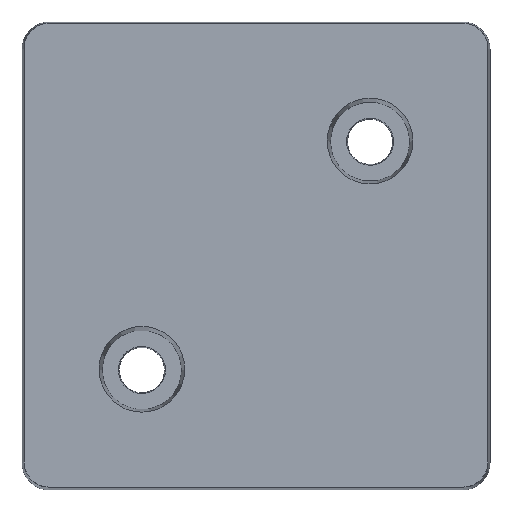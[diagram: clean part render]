
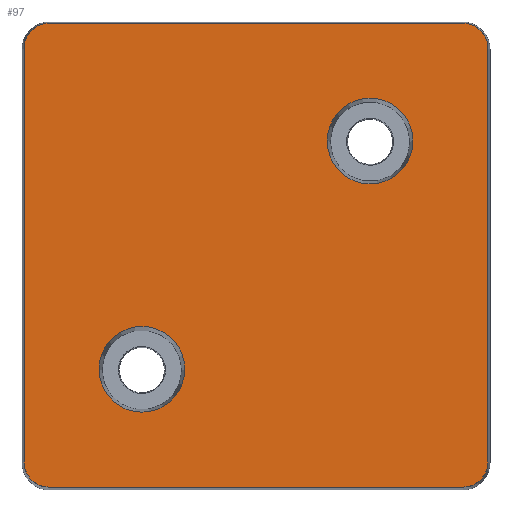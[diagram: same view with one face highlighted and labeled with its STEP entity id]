
A CAD part, top view. The second image highlights one B-rep face of the part: STEP entity #97.
In plain terms, the highlighted planar face has unit normal (0, 0, 1).
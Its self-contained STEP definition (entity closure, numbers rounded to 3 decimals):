
#97=ADVANCED_FACE('',(#504,#505,#506),#596,.T.);
#504=FACE_OUTER_BOUND('',#507,.T.);
#505=FACE_BOUND('',#508,.T.);
#506=FACE_BOUND('',#509,.T.);
#507=EDGE_LOOP('',(#510));
#508=EDGE_LOOP('',(#519,#520,#521,#522,#523,#524,#525,#526));
#509=EDGE_LOOP('',(#587));
#510=ORIENTED_EDGE('',*,*,#511,.F.);
#511=EDGE_CURVE('',#517,#517,#512,.T.);
#512=CIRCLE('',#513,4.25);
#513=AXIS2_PLACEMENT_3D('',#514,#515,#516);
#514=CARTESIAN_POINT('',(-11.314,-11.314,
   46.));
#515=DIRECTION('',(0.,0.,1.));
#516=DIRECTION('',(1.,0.,0.));
#517=VERTEX_POINT('',#518);
#518=CARTESIAN_POINT('',(-7.064,-11.314,
   46.));
#519=ORIENTED_EDGE('',*,*,#527,.F.);
#520=ORIENTED_EDGE('',*,*,#537,.F.);
#521=ORIENTED_EDGE('',*,*,#544,.F.);
#522=ORIENTED_EDGE('',*,*,#552,.F.);
#523=ORIENTED_EDGE('',*,*,#559,.F.);
#524=ORIENTED_EDGE('',*,*,#567,.F.);
#525=ORIENTED_EDGE('',*,*,#574,.F.);
#526=ORIENTED_EDGE('',*,*,#582,.F.);
#527=EDGE_CURVE('',#533,#534,#528,.F.);
#528=CIRCLE('',#529,2.5);
#529=AXIS2_PLACEMENT_3D('',#530,#531,#532);
#530=CARTESIAN_POINT('',(20.5,-20.5,46.));
#531=DIRECTION('',(0.,0.,1.));
#532=DIRECTION('',(-1.,0.,0.));
#533=VERTEX_POINT('',#535);
#534=VERTEX_POINT('',#536);
#535=CARTESIAN_POINT('',(23.,-20.5,46.));
#536=CARTESIAN_POINT('',(20.5,-23.,46.));
#537=EDGE_CURVE('',#542,#533,#538,.F.);
#538=LINE('',#539,#540);
#539=CARTESIAN_POINT('',(23.,-20.5,46.));
#540=VECTOR('',#541,1.);
#541=DIRECTION('',(0.,1.,0.));
#542=VERTEX_POINT('',#543);
#543=CARTESIAN_POINT('',(23.,20.5,46.));
#544=EDGE_CURVE('',#550,#542,#545,.F.);
#545=CIRCLE('',#546,2.5);
#546=AXIS2_PLACEMENT_3D('',#547,#548,#549);
#547=CARTESIAN_POINT('',(20.5,20.5,46.));
#548=DIRECTION('',(0.,0.,1.));
#549=DIRECTION('',(-1.,0.,0.));
#550=VERTEX_POINT('',#551);
#551=CARTESIAN_POINT('',(20.5,23.,46.));
#552=EDGE_CURVE('',#557,#550,#553,.F.);
#553=LINE('',#554,#555);
#554=CARTESIAN_POINT('',(20.5,23.,46.));
#555=VECTOR('',#556,1.);
#556=DIRECTION('',(-1.,0.,0.));
#557=VERTEX_POINT('',#558);
#558=CARTESIAN_POINT('',(-20.5,23.,46.));
#559=EDGE_CURVE('',#565,#557,#560,.F.);
#560=CIRCLE('',#561,2.5);
#561=AXIS2_PLACEMENT_3D('',#562,#563,#564);
#562=CARTESIAN_POINT('',(-20.5,20.5,46.));
#563=DIRECTION('',(0.,0.,1.));
#564=DIRECTION('',(1.,0.,0.));
#565=VERTEX_POINT('',#566);
#566=CARTESIAN_POINT('',(-23.,20.5,46.));
#567=EDGE_CURVE('',#572,#565,#568,.F.);
#568=LINE('',#569,#570);
#569=CARTESIAN_POINT('',(-23.,20.5,46.));
#570=VECTOR('',#571,1.);
#571=DIRECTION('',(0.,-1.,0.));
#572=VERTEX_POINT('',#573);
#573=CARTESIAN_POINT('',(-23.,-20.5,46.));
#574=EDGE_CURVE('',#580,#572,#575,.F.);
#575=CIRCLE('',#576,2.5);
#576=AXIS2_PLACEMENT_3D('',#577,#578,#579);
#577=CARTESIAN_POINT('',(-20.5,-20.5,46.));
#578=DIRECTION('',(0.,0.,1.));
#579=DIRECTION('',(1.,0.,0.));
#580=VERTEX_POINT('',#581);
#581=CARTESIAN_POINT('',(-20.5,-23.,46.));
#582=EDGE_CURVE('',#534,#580,#583,.F.);
#583=LINE('',#584,#585);
#584=CARTESIAN_POINT('',(-20.5,-23.,46.));
#585=VECTOR('',#586,1.);
#586=DIRECTION('',(1.,0.,0.));
#587=ORIENTED_EDGE('',*,*,#588,.F.);
#588=EDGE_CURVE('',#594,#594,#589,.T.);
#589=CIRCLE('',#590,4.25);
#590=AXIS2_PLACEMENT_3D('',#591,#592,#593);
#591=CARTESIAN_POINT('',(11.314,11.314,
   46.));
#592=DIRECTION('',(0.,0.,1.));
#593=DIRECTION('',(1.,0.,0.));
#594=VERTEX_POINT('',#595);
#595=CARTESIAN_POINT('',(15.564,11.314,
   46.));
#596=PLANE('',#597);
#597=AXIS2_PLACEMENT_3D('',#598,#599,#600);
#598=CARTESIAN_POINT('',(20.5,-20.5,46.));
#599=DIRECTION('',(0.,0.,1.));
#600=DIRECTION('',(1.,0.,0.));
